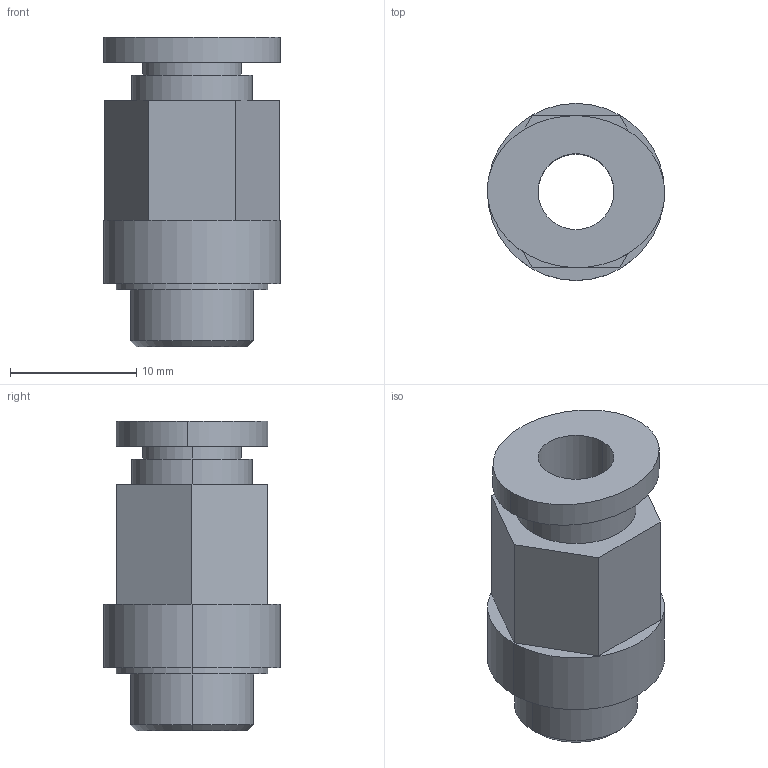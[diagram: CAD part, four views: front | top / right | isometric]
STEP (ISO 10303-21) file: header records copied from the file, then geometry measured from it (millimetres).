
FILE_DESCRIPTION (( 'STEP AP203' ), '1' );
FILE_NAME ('14010020.STEP', '2016-11-16T16:43:10', ( '' ), ( '' ), 'SwSTEP 2.0', 'SolidWorks 2015', '' );
FILE_SCHEMA (( 'CONFIG_CONTROL_DESIGN' ));
Length unit declared in the file: millimetre
Products named in the file (1): 14010020
Bounding box: 14 x 14 x 24.5 mm (x, y, z)
Volume: 2103.2 mm3; surface area: 1810.1 mm2
Topology: 1 solids, 1 shells, 30 faces, 64 edges, 42 vertices
Faces by surface type: plane 14, cylinder 12, cone 2, bspline 2
Entity records: 905 total; most frequent: CARTESIAN_POINT 163, DIRECTION 144, ORIENTED_EDGE 128, EDGE_CURVE 64, AXIS2_PLACEMENT_3D 55, VERTEX_POINT 42, EDGE_LOOP 38, VECTOR 34
